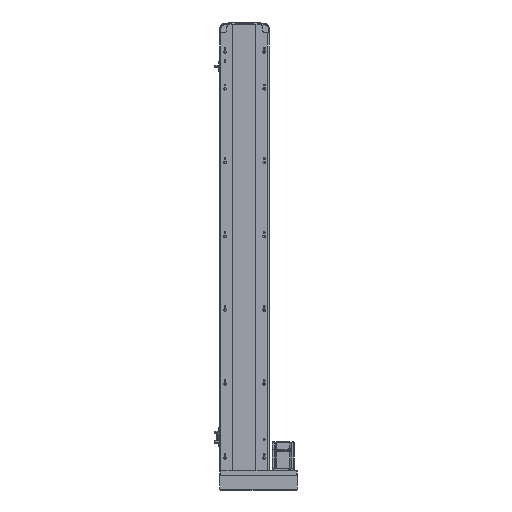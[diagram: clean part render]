
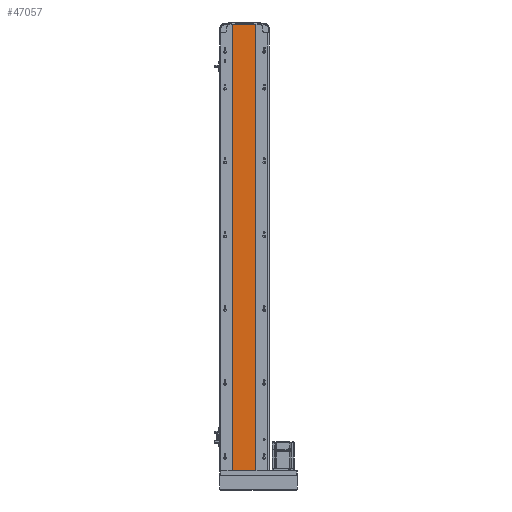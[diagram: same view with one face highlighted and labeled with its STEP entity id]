
A CAD part, front view. The second image highlights one B-rep face of the part: STEP entity #47057.
In plain terms, the highlighted planar face has unit normal (0, -1, 0).
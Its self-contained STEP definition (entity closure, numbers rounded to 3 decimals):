
#1594 = VECTOR ( 'NONE', #9498, 1000. ) ;
#1950 = CARTESIAN_POINT ( 'NONE',  ( -32., 1., 1209. ) ) ;
#2461 = DIRECTION ( 'NONE',  ( 0., 0., -1. ) ) ;
#3623 = LINE ( 'NONE', #53697, #25490 ) ;
#9498 = DIRECTION ( 'NONE',  ( 0., 0., -1. ) ) ;
#10459 = VERTEX_POINT ( 'NONE', #29573 ) ;
#12117 = AXIS2_PLACEMENT_3D ( 'NONE', #1950, #24484, #32771 ) ;
#12612 = DIRECTION ( 'NONE',  ( 1., 0., 0. ) ) ;
#16402 = ORIENTED_EDGE ( 'NONE', *, *, #36310, .T. ) ;
#18654 = CARTESIAN_POINT ( 'NONE',  ( 30., 1., 0. ) ) ;
#19373 = LINE ( 'NONE', #44529, #56808 ) ;
#22697 = DIRECTION ( 'NONE',  ( 1., 0., 0. ) ) ;
#24484 = DIRECTION ( 'NONE',  ( 0., 1., 0. ) ) ;
#25490 = VECTOR ( 'NONE', #22697, 1000. ) ;
#25690 = LINE ( 'NONE', #52038, #40545 ) ;
#26787 = ORIENTED_EDGE ( 'NONE', *, *, #30061, .F. ) ;
#27391 = VERTEX_POINT ( 'NONE', #56651 ) ;
#28055 = CARTESIAN_POINT ( 'NONE',  ( 30., 1., 1209. ) ) ;
#29573 = CARTESIAN_POINT ( 'NONE',  ( -32., 1., 1209. ) ) ;
#30061 = EDGE_CURVE ( 'NONE', #10459, #27391, #19373, .T. ) ;
#30234 = EDGE_CURVE ( 'NONE', #10459, #37832, #25690, .T. ) ;
#31222 = EDGE_CURVE ( 'NONE', #27391, #34560, #46083, .T. ) ;
#32771 = DIRECTION ( 'NONE',  ( -1., 0., 0. ) ) ;
#34560 = VERTEX_POINT ( 'NONE', #18654 ) ;
#35016 = CARTESIAN_POINT ( 'NONE',  ( -32., 1., 0. ) ) ;
#36310 = EDGE_CURVE ( 'NONE', #37832, #34560, #3623, .T. ) ;
#37832 = VERTEX_POINT ( 'NONE', #35016 ) ;
#39000 = ORIENTED_EDGE ( 'NONE', *, *, #30234, .T. ) ;
#40545 = VECTOR ( 'NONE', #2461, 1000. ) ;
#44529 = CARTESIAN_POINT ( 'NONE',  ( -32., 1., 1209. ) ) ;
#46083 = LINE ( 'NONE', #28055, #1594 ) ;
#46583 = PLANE ( 'NONE',  #12117 ) ;
#47057 = ADVANCED_FACE ( 'NONE', ( #55737 ), #46583, .F. ) ;
#47194 = EDGE_LOOP ( 'NONE', ( #16402, #51510, #26787, #39000 ) ) ;
#51510 = ORIENTED_EDGE ( 'NONE', *, *, #31222, .F. ) ;
#52038 = CARTESIAN_POINT ( 'NONE',  ( -32., 1., 1209. ) ) ;
#53697 = CARTESIAN_POINT ( 'NONE',  ( -32., 1., 0. ) ) ;
#55737 = FACE_OUTER_BOUND ( 'NONE', #47194, .T. ) ;
#56651 = CARTESIAN_POINT ( 'NONE',  ( 30., 1., 1209. ) ) ;
#56808 = VECTOR ( 'NONE', #12612, 1000. ) ;
